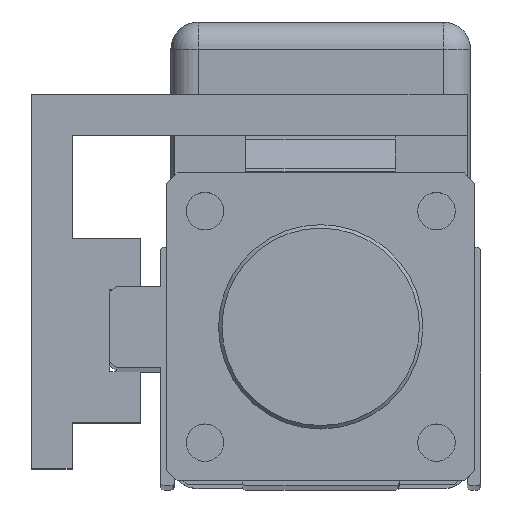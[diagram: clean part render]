
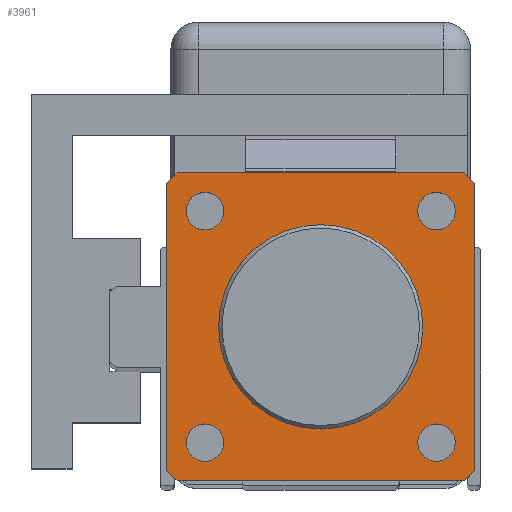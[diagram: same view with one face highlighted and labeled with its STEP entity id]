
A CAD part, top view. The second image highlights one B-rep face of the part: STEP entity #3961.
In plain terms, the highlighted planar face has unit normal (0, 0, 1).
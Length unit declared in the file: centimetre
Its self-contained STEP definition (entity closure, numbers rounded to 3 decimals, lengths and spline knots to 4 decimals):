
#515=VECTOR('',#5039,1.);
#518=VECTOR('',#5043,1.);
#520=VECTOR('',#5046,1.);
#523=VECTOR('',#5050,1.);
#526=VECTOR('',#5054,1.);
#529=VECTOR('',#5058,1.);
#533=VECTOR('',#5063,1.);
#536=VECTOR('',#5067,1.);
#823=LINE('',#6267,#515);
#826=LINE('',#6273,#518);
#828=LINE('',#6277,#520);
#831=LINE('',#6283,#523);
#834=LINE('',#6288,#526);
#837=LINE('',#6295,#529);
#841=LINE('',#6303,#533);
#844=LINE('',#6308,#536);
#1062=CIRCLE('',#4274,1.5);
#1075=CIRCLE('',#4298,0.275);
#1077=CIRCLE('',#4301,0.275);
#1078=CIRCLE('',#4303,0.275);
#1079=CIRCLE('',#4305,0.275);
#1427=VERTEX_POINT('',#6209);
#1454=VERTEX_POINT('',#6268);
#1455=VERTEX_POINT('',#6269);
#1456=VERTEX_POINT('',#6274);
#1457=VERTEX_POINT('',#6278);
#1459=VERTEX_POINT('',#6284);
#1460=VERTEX_POINT('',#6289);
#1463=VERTEX_POINT('',#6296);
#1466=VERTEX_POINT('',#6304);
#1467=VERTEX_POINT('',#6311);
#1469=VERTEX_POINT('',#6316);
#1470=VERTEX_POINT('',#6319);
#1471=VERTEX_POINT('',#6322);
#1879=EDGE_CURVE('',#1427,#1427,#1062,.T.);
#1908=EDGE_CURVE('',#1454,#1455,#823,.T.);
#1911=EDGE_CURVE('',#1455,#1456,#826,.T.);
#1913=EDGE_CURVE('',#1456,#1457,#828,.T.);
#1916=EDGE_CURVE('',#1457,#1459,#831,.T.);
#1919=EDGE_CURVE('',#1459,#1460,#834,.T.);
#1923=EDGE_CURVE('',#1460,#1463,#837,.T.);
#1927=EDGE_CURVE('',#1463,#1466,#841,.T.);
#1930=EDGE_CURVE('',#1466,#1454,#844,.T.);
#1931=EDGE_CURVE('',#1467,#1467,#1075,.T.);
#1933=EDGE_CURVE('',#1469,#1469,#1077,.T.);
#1934=EDGE_CURVE('',#1470,#1470,#1078,.T.);
#1935=EDGE_CURVE('',#1471,#1471,#1079,.T.);
#2749=ORIENTED_EDGE('',*,*,#1879,.T.);
#2750=ORIENTED_EDGE('',*,*,#1935,.F.);
#2751=ORIENTED_EDGE('',*,*,#1934,.F.);
#2752=ORIENTED_EDGE('',*,*,#1933,.F.);
#2753=ORIENTED_EDGE('',*,*,#1931,.F.);
#2754=ORIENTED_EDGE('',*,*,#1908,.F.);
#2755=ORIENTED_EDGE('',*,*,#1930,.F.);
#2756=ORIENTED_EDGE('',*,*,#1927,.F.);
#2757=ORIENTED_EDGE('',*,*,#1923,.F.);
#2758=ORIENTED_EDGE('',*,*,#1919,.F.);
#2759=ORIENTED_EDGE('',*,*,#1916,.F.);
#2760=ORIENTED_EDGE('',*,*,#1913,.F.);
#2761=ORIENTED_EDGE('',*,*,#1911,.F.);
#3384=EDGE_LOOP('',(#2749));
#3385=EDGE_LOOP('',(#2750));
#3386=EDGE_LOOP('',(#2751));
#3387=EDGE_LOOP('',(#2752));
#3388=EDGE_LOOP('',(#2753));
#3389=EDGE_LOOP('',(#2754,#2755,#2756,#2757,#2758,#2759,#2760,#2761));
#3713=FACE_BOUND('',#3384,.T.);
#3714=FACE_BOUND('',#3385,.T.);
#3715=FACE_BOUND('',#3386,.T.);
#3716=FACE_BOUND('',#3387,.T.);
#3717=FACE_BOUND('',#3388,.T.);
#3718=FACE_BOUND('',#3389,.T.);
#3961=ADVANCED_FACE('',(#3713,#3714,#3715,#3716,#3717,#3718),#6693,.T.);
#4274=AXIS2_PLACEMENT_3D('',#6208,#4994,#4995);
#4298=AXIS2_PLACEMENT_3D('',#6310,#5070,#5071);
#4301=AXIS2_PLACEMENT_3D('',#6315,#5076,#5077);
#4303=AXIS2_PLACEMENT_3D('',#6318,#5080,#5081);
#4305=AXIS2_PLACEMENT_3D('',#6321,#5084,#5085);
#4306=AXIS2_PLACEMENT_3D('',#6323,#5086,$);
#4994=DIRECTION('',(0.,0.,-1.));
#4995=DIRECTION('',(1.5,0.,0.));
#5039=DIRECTION('',(1.,0.,0.));
#5043=DIRECTION('',(0.707,-0.707,0.));
#5046=DIRECTION('',(0.,-1.,0.));
#5050=DIRECTION('',(-0.707,-0.707,0.));
#5054=DIRECTION('',(-1.,0.,0.));
#5058=DIRECTION('',(-0.707,0.707,0.));
#5063=DIRECTION('',(0.,1.,0.));
#5067=DIRECTION('',(0.707,0.707,0.));
#5070=DIRECTION('',(0.,0.,1.));
#5071=DIRECTION('',(0.275,0.,0.));
#5076=DIRECTION('',(0.,0.,1.));
#5077=DIRECTION('',(0.275,0.,0.));
#5080=DIRECTION('',(0.,0.,1.));
#5081=DIRECTION('',(0.275,0.,0.));
#5084=DIRECTION('',(0.,0.,1.));
#5085=DIRECTION('',(0.275,0.,0.));
#5086=DIRECTION('',(0.,0.,1.));
#6208=CARTESIAN_POINT('',(0.,0.,38.));
#6209=CARTESIAN_POINT('',(1.5,0.,38.));
#6267=CARTESIAN_POINT('',(2.11,2.26,38.));
#6268=CARTESIAN_POINT('',(-2.11,2.26,38.));
#6269=CARTESIAN_POINT('',(2.11,2.26,38.));
#6273=CARTESIAN_POINT('',(2.26,2.11,38.));
#6274=CARTESIAN_POINT('',(2.26,2.11,38.));
#6277=CARTESIAN_POINT('',(2.26,-2.11,38.));
#6278=CARTESIAN_POINT('',(2.26,-2.11,38.));
#6283=CARTESIAN_POINT('',(2.11,-2.26,38.));
#6284=CARTESIAN_POINT('',(2.11,-2.26,38.));
#6288=CARTESIAN_POINT('',(-2.11,-2.26,38.));
#6289=CARTESIAN_POINT('',(-2.11,-2.26,38.));
#6295=CARTESIAN_POINT('',(-2.26,-2.11,38.));
#6296=CARTESIAN_POINT('',(-2.26,-2.11,38.));
#6303=CARTESIAN_POINT('',(-2.26,2.11,38.));
#6304=CARTESIAN_POINT('',(-2.26,2.11,38.));
#6308=CARTESIAN_POINT('',(-2.11,2.26,38.));
#6310=CARTESIAN_POINT('',(-1.7,-1.7,38.));
#6311=CARTESIAN_POINT('',(-1.425,-1.7,38.));
#6315=CARTESIAN_POINT('',(-1.7,1.7,38.));
#6316=CARTESIAN_POINT('',(-1.425,1.7,38.));
#6318=CARTESIAN_POINT('',(1.7,1.7,38.));
#6319=CARTESIAN_POINT('',(1.975,1.7,38.));
#6321=CARTESIAN_POINT('',(1.7,-1.7,38.));
#6322=CARTESIAN_POINT('',(1.975,-1.7,38.));
#6323=CARTESIAN_POINT('',(0.,0.,38.));
#6693=PLANE('',#4306);
